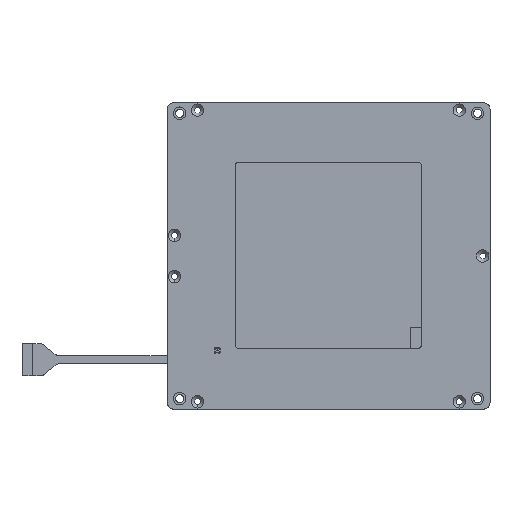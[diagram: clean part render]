
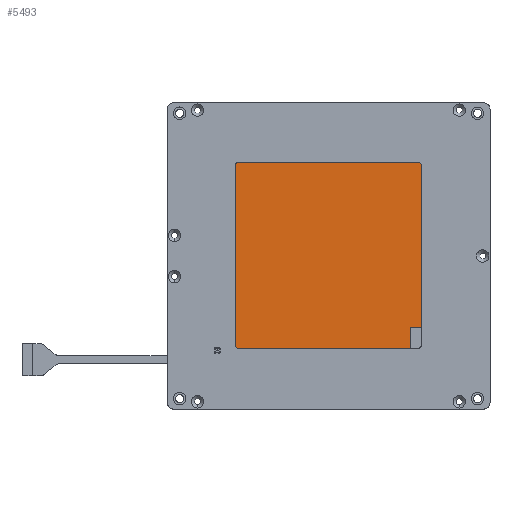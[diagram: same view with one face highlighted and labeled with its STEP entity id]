
A CAD part, top view. The second image highlights one B-rep face of the part: STEP entity #5493.
In plain terms, the highlighted planar face has unit normal (0, 0, 1).
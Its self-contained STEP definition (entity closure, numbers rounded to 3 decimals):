
#5493=ADVANCED_FACE('',(#13246),#13247,.T.);
#5637=EDGE_CURVE('',#13440,#13437,#13441,.T.);
#5641=EDGE_CURVE('',#13445,#13440,#13446,.T.);
#5645=EDGE_CURVE('',#13450,#13445,#13451,.T.);
#5649=EDGE_CURVE('',#13437,#13450,#13455,.T.);
#13246=FACE_OUTER_BOUND('',#30874,.T.);
#13247=PLANE('',#30875);
#13437=VERTEX_POINT('',#31252);
#13440=VERTEX_POINT('',#31257);
#13441=LINE('',#31258,#31259);
#13445=VERTEX_POINT('',#31266);
#13446=LINE('',#31267,#31268);
#13450=VERTEX_POINT('',#31275);
#13451=LINE('',#31276,#31277);
#13455=LINE('',#31284,#31285);
#30874=EDGE_LOOP('',(#46228,#46229,#46230,#46231));
#30875=AXIS2_PLACEMENT_3D('',#46232,#46233,#46234);
#31252=CARTESIAN_POINT('',(-47.727,47.6,2.82));
#31257=CARTESIAN_POINT('',(47.473,47.6,2.82));
#31258=CARTESIAN_POINT('',(47.473,47.6,2.82));
#31259=VECTOR('',#46359,95.2);
#31266=CARTESIAN_POINT('',(47.473,-47.1,2.82));
#31267=CARTESIAN_POINT('',(47.473,-47.1,2.82));
#31268=VECTOR('',#46361,94.7);
#31275=CARTESIAN_POINT('',(-47.727,-47.1,2.82));
#31276=CARTESIAN_POINT('',(-47.727,-47.1,2.82));
#31277=VECTOR('',#46363,95.2);
#31284=CARTESIAN_POINT('',(-47.727,47.6,2.82));
#31285=VECTOR('',#46365,94.7);
#46228=ORIENTED_EDGE('',*,*,#5649,.T.);
#46229=ORIENTED_EDGE('',*,*,#5645,.T.);
#46230=ORIENTED_EDGE('',*,*,#5641,.T.);
#46231=ORIENTED_EDGE('',*,*,#5637,.T.);
#46232=CARTESIAN_POINT('',(2.023,0.0,2.82));
#46233=DIRECTION('',(0.,-0.0,1.0));
#46234=DIRECTION('',(0.0,1.0,0.0));
#46359=DIRECTION('',(-1.0,0.0,0.));
#46361=DIRECTION('',(0.0,1.0,0.0));
#46363=DIRECTION('',(1.0,0.0,0.));
#46365=DIRECTION('',(0.0,-1.0,0.0));
